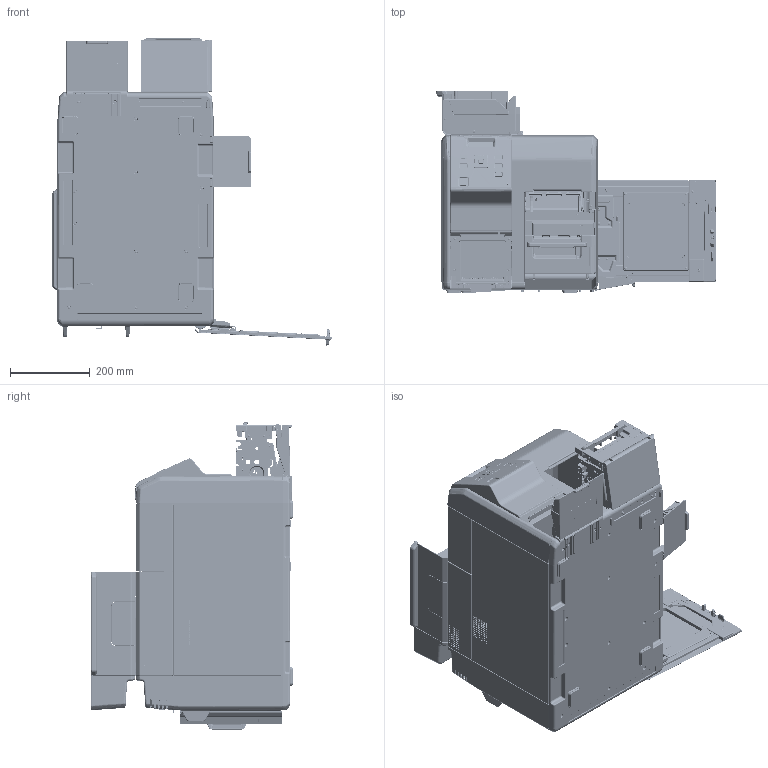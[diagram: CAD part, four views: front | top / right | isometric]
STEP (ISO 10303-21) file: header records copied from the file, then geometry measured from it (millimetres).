
FILE_DESCRIPTION((''),'2;1');
FILE_NAME('APPEARANCE_HANSHA_COV_SW0002','2025-04-30T13:02:30',('5011256'),(''),'CREO PARAMETRIC BY PTC INC, 2021184','CREO PARAMETRIC BY PTC INC, 2021184','');
FILE_SCHEMA(('AUTOMOTIVE_DESIGN { 1 0 10303 214 1 1 1 1 }'));
Products named in the file (1): APPEARANCE_HANSHA_COV_SW0002
Bounding box: 700.79 x 507.1 x 770.22 mm (x, y, z)
Surface area: 6072602.1 mm2 (no closed solid volume)
Topology: 0 solids, 731 shells, 21227 faces, 76168 edges, 52850 vertices
Faces by surface type: plane 10258, cylinder 7268, bspline 1461, torus 939, sphere 695, cone 548, extrusion 58
Entity records: 1043411 total; most frequent: CARTESIAN_POINT 402832, DIRECTION 133950, ORIENTED_EDGE 123855, EDGE_CURVE 75599, VERTEX_POINT 52849, AXIS2_PLACEMENT_3D 45028, VECTOR 43894, LINE 43836
